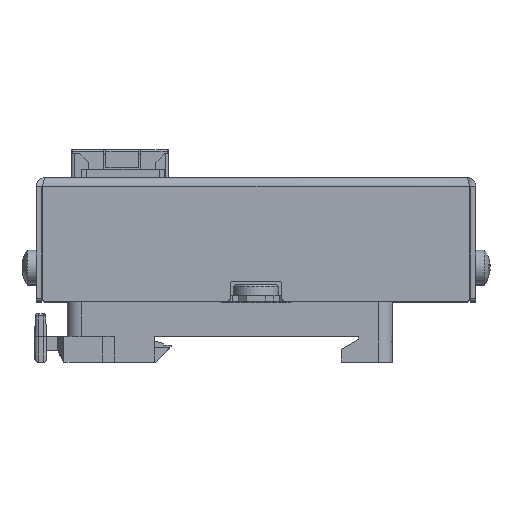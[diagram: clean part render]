
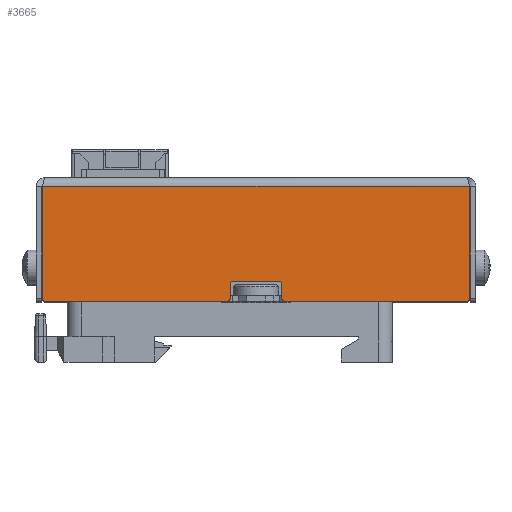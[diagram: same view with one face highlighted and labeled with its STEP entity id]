
A CAD part, top view. The second image highlights one B-rep face of the part: STEP entity #3665.
In plain terms, the highlighted planar face has unit normal (0, 0, 1).
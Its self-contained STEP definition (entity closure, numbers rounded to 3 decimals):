
#35 = VERTEX_POINT ( 'NONE', #37587 ) ;
#341 = CARTESIAN_POINT ( 'NONE',  ( -3.8, 18.1, 55.15 ) ) ;
#641 = DIRECTION ( 'NONE',  ( 1., 0., 0. ) ) ;
#767 = CARTESIAN_POINT ( 'NONE',  ( -37.2, 15.6, 55.15 ) ) ;
#1027 = LINE ( 'NONE', #28572, #25578 ) ;
#1698 = AXIS2_PLACEMENT_3D ( 'NONE', #42169, #18573, #23301 ) ;
#1754 = CARTESIAN_POINT ( 'NONE',  ( 4.2, 18.6, 55.15 ) ) ;
#3367 = VECTOR ( 'NONE', #4719, 1000. ) ;
#3665 = ADVANCED_FACE ( 'NONE', ( #31898 ), #55801, .F. ) ;
#4332 = AXIS2_PLACEMENT_3D ( 'NONE', #53379, #25028, #44083 ) ;
#4719 = DIRECTION ( 'NONE',  ( 0., 1., 0. ) ) ;
#4733 = VERTEX_POINT ( 'NONE', #26303 ) ;
#5091 = CARTESIAN_POINT ( 'NONE',  ( 4.7, 15.1, 55.15 ) ) ;
#5357 = LINE ( 'NONE', #8124, #41661 ) ;
#5538 = CARTESIAN_POINT ( 'NONE',  ( 4.7, 18.6, 55.15 ) ) ;
#5783 = VERTEX_POINT ( 'NONE', #46223 ) ;
#6076 = ORIENTED_EDGE ( 'NONE', *, *, #19620, .F. ) ;
#6316 = CARTESIAN_POINT ( 'NONE',  ( 4.2, 18.1, 55.15 ) ) ;
#6709 = EDGE_CURVE ( 'NONE', #58116, #51705, #55713, .T. ) ;
#7113 = VERTEX_POINT ( 'NONE', #46192 ) ;
#7855 = CARTESIAN_POINT ( 'NONE',  ( -4.3, 15.6, 55.15 ) ) ;
#8124 = CARTESIAN_POINT ( 'NONE',  ( -37.2, 15.1, 55.15 ) ) ;
#8283 = CARTESIAN_POINT ( 'NONE',  ( -37.2, 35.2, 55.15 ) ) ;
#8757 = VECTOR ( 'NONE', #50966, 1000. ) ;
#9597 = EDGE_CURVE ( 'NONE', #25718, #14192, #30208, .T. ) ;
#9874 = ORIENTED_EDGE ( 'NONE', *, *, #34570, .F. ) ;
#9990 = CARTESIAN_POINT ( 'NONE',  ( -4.3, 18.1, 55.15 ) ) ;
#10610 = EDGE_CURVE ( 'NONE', #40232, #5783, #51465, .T. ) ;
#10802 = EDGE_CURVE ( 'NONE', #7113, #12829, #17290, .T. ) ;
#11172 = ORIENTED_EDGE ( 'NONE', *, *, #31597, .T. ) ;
#11450 = LINE ( 'NONE', #5091, #35420 ) ;
#12829 = VERTEX_POINT ( 'NONE', #13447 ) ;
#13447 = CARTESIAN_POINT ( 'NONE',  ( 5.2, 15.1, 55.15 ) ) ;
#13701 = CIRCLE ( 'NONE', #32029, 0.5 ) ;
#13813 = CARTESIAN_POINT ( 'NONE',  ( 4.7, 18.1, 55.15 ) ) ;
#14192 = VERTEX_POINT ( 'NONE', #13813 ) ;
#14703 = LINE ( 'NONE', #5538, #54697 ) ;
#15354 = EDGE_CURVE ( 'NONE', #12829, #17484, #57452, .T. ) ;
#16042 = DIRECTION ( 'NONE',  ( 1., 0., 0. ) ) ;
#16356 = CIRCLE ( 'NONE', #1698, 0.5 ) ;
#17290 = CIRCLE ( 'NONE', #4332, 0.5 ) ;
#17484 = VERTEX_POINT ( 'NONE', #26597 ) ;
#17839 = CARTESIAN_POINT ( 'NONE',  ( -38.3, 15.1, 55.15 ) ) ;
#18573 = DIRECTION ( 'NONE',  ( 0., 0., 1. ) ) ;
#18658 = ORIENTED_EDGE ( 'NONE', *, *, #27221, .T. ) ;
#19620 = EDGE_CURVE ( 'NONE', #25718, #5783, #14703, .T. ) ;
#20251 = DIRECTION ( 'NONE',  ( -1., 0., 0. ) ) ;
#20584 = EDGE_CURVE ( 'NONE', #7113, #14192, #11450, .T. ) ;
#21044 = VERTEX_POINT ( 'NONE', #7855 ) ;
#21538 = CARTESIAN_POINT ( 'NONE',  ( -36.7, 15.1, 55.15 ) ) ;
#22027 = CARTESIAN_POINT ( 'NONE',  ( -4.8, 15.6, 55.15 ) ) ;
#22043 = EDGE_CURVE ( 'NONE', #40232, #21044, #1027, .T. ) ;
#22416 = ORIENTED_EDGE ( 'NONE', *, *, #20584, .F. ) ;
#23018 = VERTEX_POINT ( 'NONE', #767 ) ;
#23301 = DIRECTION ( 'NONE',  ( 0., -1., 0. ) ) ;
#23373 = CARTESIAN_POINT ( 'NONE',  ( 37.6, 35.2, 55.15 ) ) ;
#24135 = DIRECTION ( 'NONE',  ( 0., 1., 0. ) ) ;
#24833 = VECTOR ( 'NONE', #16042, 1000. ) ;
#25028 = DIRECTION ( 'NONE',  ( 0., 0., 1. ) ) ;
#25183 = VERTEX_POINT ( 'NONE', #21538 ) ;
#25578 = VECTOR ( 'NONE', #38286, 1000. ) ;
#25579 = AXIS2_PLACEMENT_3D ( 'NONE', #38811, #53107, #34238 ) ;
#25718 = VERTEX_POINT ( 'NONE', #1754 ) ;
#26303 = CARTESIAN_POINT ( 'NONE',  ( -4.8, 15.1, 55.15 ) ) ;
#26523 = EDGE_CURVE ( 'NONE', #25183, #4733, #58453, .T. ) ;
#26597 = CARTESIAN_POINT ( 'NONE',  ( 37.1, 15.1, 55.15 ) ) ;
#26919 = AXIS2_PLACEMENT_3D ( 'NONE', #341, #61467, #28752 ) ;
#27221 = EDGE_CURVE ( 'NONE', #35, #51705, #58956, .T. ) ;
#27618 = DIRECTION ( 'NONE',  ( 0., 1., 0. ) ) ;
#28334 = CARTESIAN_POINT ( 'NONE',  ( 37.6, 15.1, 55.15 ) ) ;
#28572 = CARTESIAN_POINT ( 'NONE',  ( -4.3, 15.1, 55.15 ) ) ;
#28752 = DIRECTION ( 'NONE',  ( 0., -1., 0. ) ) ;
#29895 = ORIENTED_EDGE ( 'NONE', *, *, #15354, .T. ) ;
#30208 = CIRCLE ( 'NONE', #45847, 0.5 ) ;
#30270 = ORIENTED_EDGE ( 'NONE', *, *, #26523, .T. ) ;
#31597 = EDGE_CURVE ( 'NONE', #23018, #25183, #16356, .T. ) ;
#31898 = FACE_OUTER_BOUND ( 'NONE', #52259, .T. ) ;
#32029 = AXIS2_PLACEMENT_3D ( 'NONE', #22027, #40263, #59922 ) ;
#32700 = VECTOR ( 'NONE', #641, 1000. ) ;
#33817 = CIRCLE ( 'NONE', #25579, 0.5 ) ;
#34238 = DIRECTION ( 'NONE',  ( 0., -1., 0. ) ) ;
#34570 = EDGE_CURVE ( 'NONE', #23018, #58116, #5357, .T. ) ;
#35266 = CARTESIAN_POINT ( 'NONE',  ( -38.3, 15.1, 55.15 ) ) ;
#35420 = VECTOR ( 'NONE', #24135, 1000. ) ;
#36331 = DIRECTION ( 'NONE',  ( 0., -1., 0. ) ) ;
#36891 = ORIENTED_EDGE ( 'NONE', *, *, #53528, .T. ) ;
#36962 = ORIENTED_EDGE ( 'NONE', *, *, #10802, .T. ) ;
#37508 = ORIENTED_EDGE ( 'NONE', *, *, #10610, .T. ) ;
#37587 = CARTESIAN_POINT ( 'NONE',  ( 37.6, 15.6, 55.15 ) ) ;
#38171 = CARTESIAN_POINT ( 'NONE',  ( -38.3, 35.2, 55.15 ) ) ;
#38286 = DIRECTION ( 'NONE',  ( 0., -1., 0. ) ) ;
#38811 = CARTESIAN_POINT ( 'NONE',  ( 37.1, 15.6, 55.15 ) ) ;
#39273 = AXIS2_PLACEMENT_3D ( 'NONE', #41115, #60758, #36331 ) ;
#40232 = VERTEX_POINT ( 'NONE', #9990 ) ;
#40263 = DIRECTION ( 'NONE',  ( 0., 0., 1. ) ) ;
#41115 = CARTESIAN_POINT ( 'NONE',  ( -38.3, 15.1, 55.15 ) ) ;
#41661 = VECTOR ( 'NONE', #27618, 1000. ) ;
#42169 = CARTESIAN_POINT ( 'NONE',  ( -36.7, 15.6, 55.15 ) ) ;
#44083 = DIRECTION ( 'NONE',  ( 0., -1., 0. ) ) ;
#45847 = AXIS2_PLACEMENT_3D ( 'NONE', #6316, #49577, #54151 ) ;
#46192 = CARTESIAN_POINT ( 'NONE',  ( 4.7, 15.6, 55.15 ) ) ;
#46223 = CARTESIAN_POINT ( 'NONE',  ( -3.8, 18.6, 55.15 ) ) ;
#48919 = ORIENTED_EDGE ( 'NONE', *, *, #22043, .F. ) ;
#49577 = DIRECTION ( 'NONE',  ( 0., 0., -1. ) ) ;
#50966 = DIRECTION ( 'NONE',  ( 1., 0., 0. ) ) ;
#51102 = ORIENTED_EDGE ( 'NONE', *, *, #9597, .T. ) ;
#51465 = CIRCLE ( 'NONE', #26919, 0.5 ) ;
#51705 = VERTEX_POINT ( 'NONE', #23373 ) ;
#52259 = EDGE_LOOP ( 'NONE', ( #30270, #53051, #48919, #37508, #6076, #51102, #22416, #36962, #29895, #36891, #18658, #55853, #9874, #11172 ) ) ;
#53051 = ORIENTED_EDGE ( 'NONE', *, *, #55583, .T. ) ;
#53107 = DIRECTION ( 'NONE',  ( 0., 0., 1. ) ) ;
#53379 = CARTESIAN_POINT ( 'NONE',  ( 5.2, 15.6, 55.15 ) ) ;
#53528 = EDGE_CURVE ( 'NONE', #17484, #35, #33817, .T. ) ;
#54151 = DIRECTION ( 'NONE',  ( 0., -1., 0. ) ) ;
#54697 = VECTOR ( 'NONE', #20251, 1000. ) ;
#55583 = EDGE_CURVE ( 'NONE', #4733, #21044, #13701, .T. ) ;
#55713 = LINE ( 'NONE', #38171, #32700 ) ;
#55801 = PLANE ( 'NONE',  #39273 ) ;
#55853 = ORIENTED_EDGE ( 'NONE', *, *, #6709, .F. ) ;
#57452 = LINE ( 'NONE', #35266, #24833 ) ;
#58116 = VERTEX_POINT ( 'NONE', #8283 ) ;
#58453 = LINE ( 'NONE', #17839, #8757 ) ;
#58956 = LINE ( 'NONE', #28334, #3367 ) ;
#59922 = DIRECTION ( 'NONE',  ( 0., -1., 0. ) ) ;
#60758 = DIRECTION ( 'NONE',  ( 0., 0., -1. ) ) ;
#61467 = DIRECTION ( 'NONE',  ( 0., 0., -1. ) ) ;
